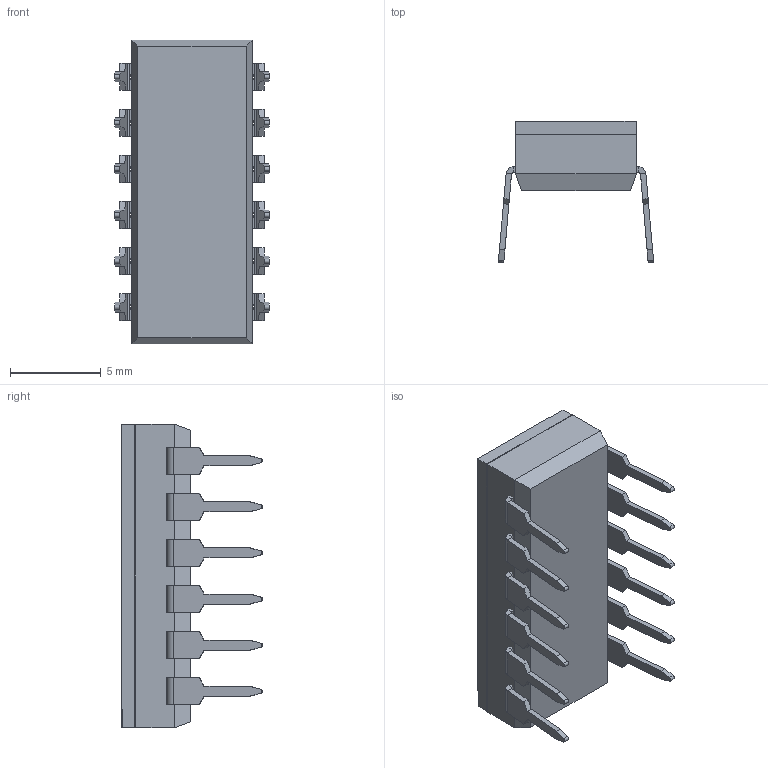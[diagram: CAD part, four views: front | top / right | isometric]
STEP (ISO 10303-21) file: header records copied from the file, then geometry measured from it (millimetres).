
FILE_DESCRIPTION (( 'STEP AP203' ), '1' );
FILE_NAME ('209-6LPS.STEP', '2019-05-24T07:11:58', ( '' ), ( '' ), 'SwSTEP 2.0', 'SolidWorks 2019', '' );
FILE_SCHEMA (( 'CONFIG_CONTROL_DESIGN' ));
Length unit declared in the file: millimetre
Products named in the file (5): 209-02-206 mold housing for 209; 209-40-206 for 209; 219-56-001; 209-83-001-06-01 lead frame; 209-6LPS
Assembly tree (14 placements, depth 2):
  209-6LPS
    209-02-206 mold housing for 209
    209-40-206 for 209
    219-56-001  x6
    209-83-001-06-01 lead frame  x6
Bounding box: 8.55 x 7.76 x 16.72 mm (x, y, z)
Volume: 361.5 mm3; surface area: 1190.8 mm2
Topology: 20 solids, 20 shells, 902 faces, 2318 edges, 1472 vertices
Faces by surface type: plane 557, bspline 189, cylinder 132, sphere 24
Entity records: 24763 total; most frequent: CARTESIAN_POINT 13607, ORIENTED_EDGE 2468, DIRECTION 1490, EDGE_CURVE 1234, LINE 812, VERTEX_POINT 812, VECTOR 812, EDGE_LOOP 518
